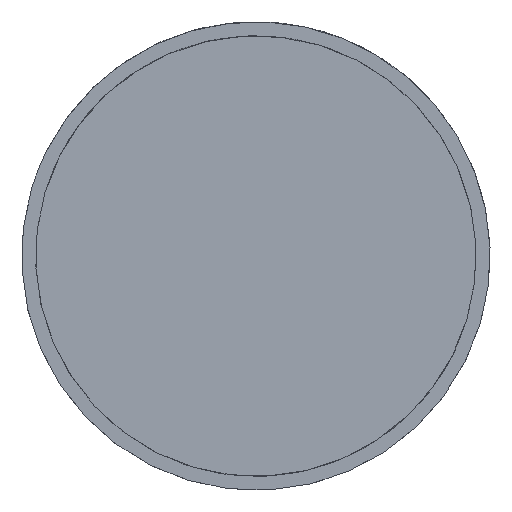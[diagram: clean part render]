
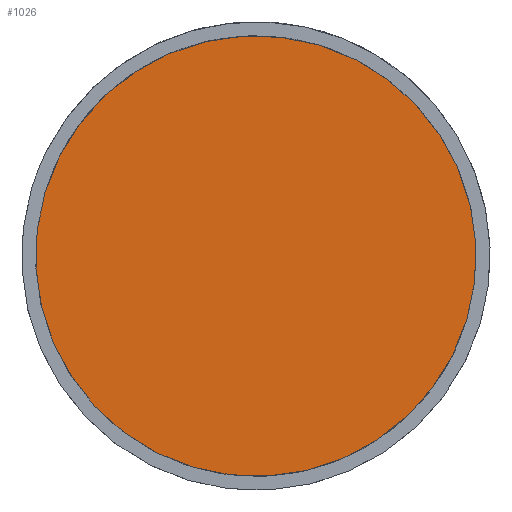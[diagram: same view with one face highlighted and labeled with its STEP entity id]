
A CAD part, front view. The second image highlights one B-rep face of the part: STEP entity #1026.
In plain terms, the highlighted planar face has unit normal (0, -1, 0).
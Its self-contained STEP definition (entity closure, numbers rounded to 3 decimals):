
#906=AXIS2_PLACEMENT_3D('Circle Axis2P3D',#904,#905,$) ;
#961=AXIS2_PLACEMENT_3D('Circle Axis2P3D',#959,#960,$) ;
#1020=AXIS2_PLACEMENT_3D('Plane Axis2P3D',#1017,#1018,#1019) ;
#899=CARTESIAN_POINT('Vertex',(-184.493,-1361.23,343.669)) ;
#904=CARTESIAN_POINT('Axis2P3D Location',(-179.226,-1361.23,342.086)) ;
#908=CARTESIAN_POINT('Vertex',(-173.959,-1361.23,340.503)) ;
#959=CARTESIAN_POINT('Axis2P3D Location',(-179.226,-1361.23,342.086)) ;
#1017=CARTESIAN_POINT('Axis2P3D Location',(-183.722,-1361.23,334.872)) ;
#905=DIRECTION('Axis2P3D Direction',(0.,1.,0.)) ;
#960=DIRECTION('Axis2P3D Direction',(0.,1.,0.)) ;
#1018=DIRECTION('Axis2P3D Direction',(0.,1.,0.)) ;
#1019=DIRECTION('Axis2P3D XDirection',(-0.529,0.,-0.849)) ;
#1023=ORIENTED_EDGE('',*,*,#963,.F.) ;
#1024=ORIENTED_EDGE('',*,*,#910,.F.) ;
#1026=ADVANCED_FACE('\X2\51E04F554F53\X0\.2',(#1025),#1021,.F.) ;
#907=CIRCLE('generated circle',#906,5.5) ;
#962=CIRCLE('generated circle',#961,5.5) ;
#910=EDGE_CURVE('',#900,#909,#907,.T.) ;
#963=EDGE_CURVE('',#909,#900,#962,.T.) ;
#1022=EDGE_LOOP('',(#1023,#1024)) ;
#1025=FACE_OUTER_BOUND('',#1022,.T.) ;
#1021=PLANE('',#1020) ;
#900=VERTEX_POINT('',#899) ;
#909=VERTEX_POINT('',#908) ;
